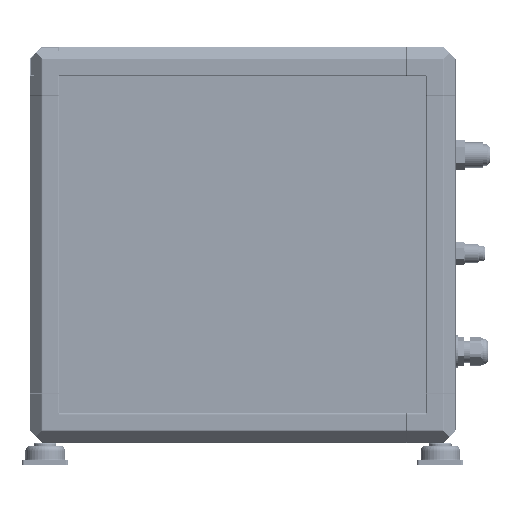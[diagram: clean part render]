
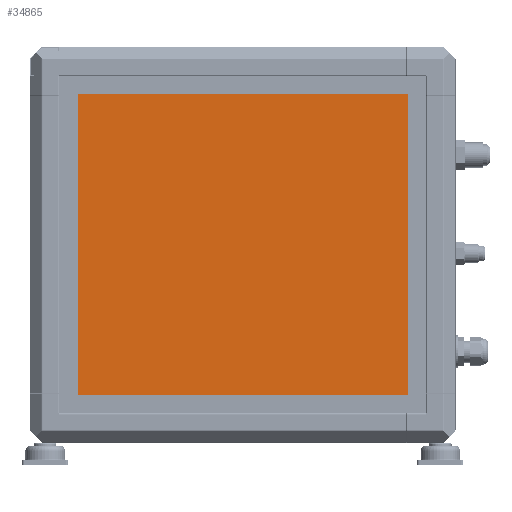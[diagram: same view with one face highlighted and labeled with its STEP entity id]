
A CAD part, left-side view. The second image highlights one B-rep face of the part: STEP entity #34865.
In plain terms, the highlighted planar face has unit normal (-1, 0, 0) as drawn and (0, 0, 1) by its records, which use the part's own axes.
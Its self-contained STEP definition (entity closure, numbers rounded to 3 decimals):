
#6094=FACE_OUTER_BOUND('',#8343,.T.);
#8343=EDGE_LOOP('',(#27210,#27211,#27212,#27213));
#10514=LINE('',#59251,#13094);
#10520=LINE('',#59262,#13100);
#10527=LINE('',#59277,#13107);
#10530=LINE('',#59282,#13110);
#13094=VECTOR('',#46912,10.);
#13100=VECTOR('',#46922,10.);
#13107=VECTOR('',#46933,10.);
#13110=VECTOR('',#46938,10.);
#16266=VERTEX_POINT('',#59249);
#16267=VERTEX_POINT('',#59250);
#16270=VERTEX_POINT('',#59261);
#16276=VERTEX_POINT('',#59276);
#20233=EDGE_CURVE('',#16266,#16267,#10514,.T.);
#20239=EDGE_CURVE('',#16270,#16266,#10520,.T.);
#20246=EDGE_CURVE('',#16267,#16276,#10527,.T.);
#20249=EDGE_CURVE('',#16276,#16270,#10530,.T.);
#27210=ORIENTED_EDGE('',*,*,#20239,.T.);
#27211=ORIENTED_EDGE('',*,*,#20233,.T.);
#27212=ORIENTED_EDGE('',*,*,#20246,.T.);
#27213=ORIENTED_EDGE('',*,*,#20249,.T.);
#33545=PLANE('',#40208);
#34865=ADVANCED_FACE('',(#6094),#33545,.T.);
#40208=AXIS2_PLACEMENT_3D('',#59301,#46958,#46959);
#46912=DIRECTION('',(0.,1.,0.));
#46922=DIRECTION('',(1.,0.,0.));
#46933=DIRECTION('',(-1.,0.,0.));
#46938=DIRECTION('',(0.,-1.,0.));
#46958=DIRECTION('center_axis',(0.,0.,1.));
#46959=DIRECTION('ref_axis',(1.,0.,0.));
#59249=CARTESIAN_POINT('',(185.512,-282.224,20.));
#59250=CARTESIAN_POINT('',(185.512,52.776,20.));
#59251=CARTESIAN_POINT('',(185.512,-30.974,20.));
#59261=CARTESIAN_POINT('',(-119.488,-282.224,20.));
#59262=CARTESIAN_POINT('',(109.262,-282.224,20.));
#59276=CARTESIAN_POINT('',(-119.488,52.776,20.));
#59277=CARTESIAN_POINT('',(-43.238,52.776,20.));
#59282=CARTESIAN_POINT('',(-119.488,-198.474,20.));
#59301=CARTESIAN_POINT('Origin',(33.012,-114.724,20.));
